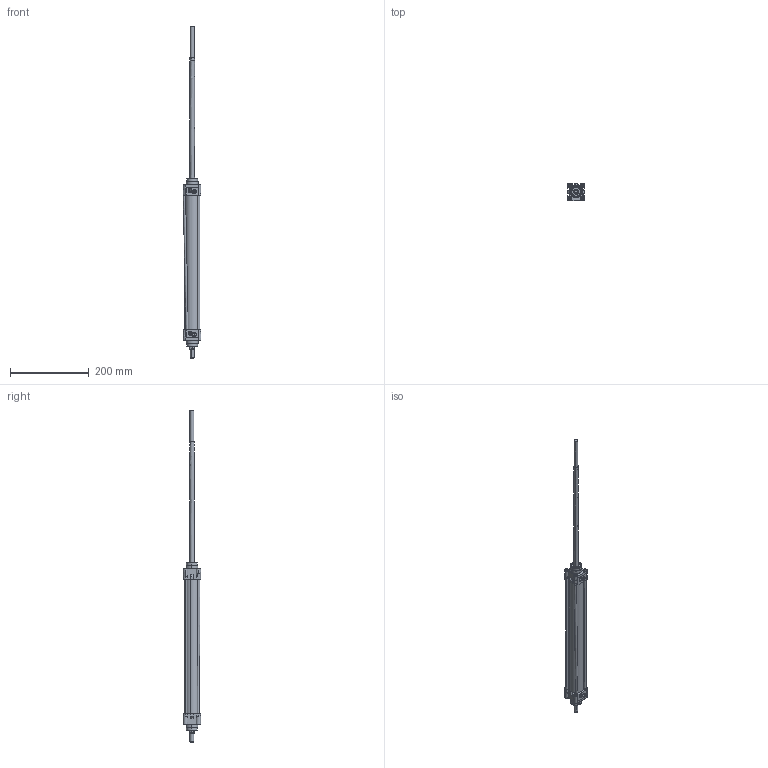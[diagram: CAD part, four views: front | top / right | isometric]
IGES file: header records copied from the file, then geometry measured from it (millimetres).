
Start section: SolidWorks IGES file using analytic representation for surfaces
Global section: file name: D:\ARICA 3D ﾇﾝZﾝMLER\3D IGES\TDNC ﾇﾝFT MﾝLLﾝ STROK AYARLI\TDNC32 STROK AYARLI\TDNC32X300CIFTMILLI-STROK AYARLI-CYLINDER.IGS; native system: SolidWorks 2013; preprocessor: SolidWorks 2013; author: user; date: 150330.122049; units: millimetre
Bounding box: 45.24 x 44.65 x 843 mm (x, y, z)
Surface area: 186447.8 mm2 (no closed solid volume)
Topology: 0 solids, 0 shells, 923 faces, 13414 edges, 13366 vertices
Faces by surface type: revolution 490, bspline 433
